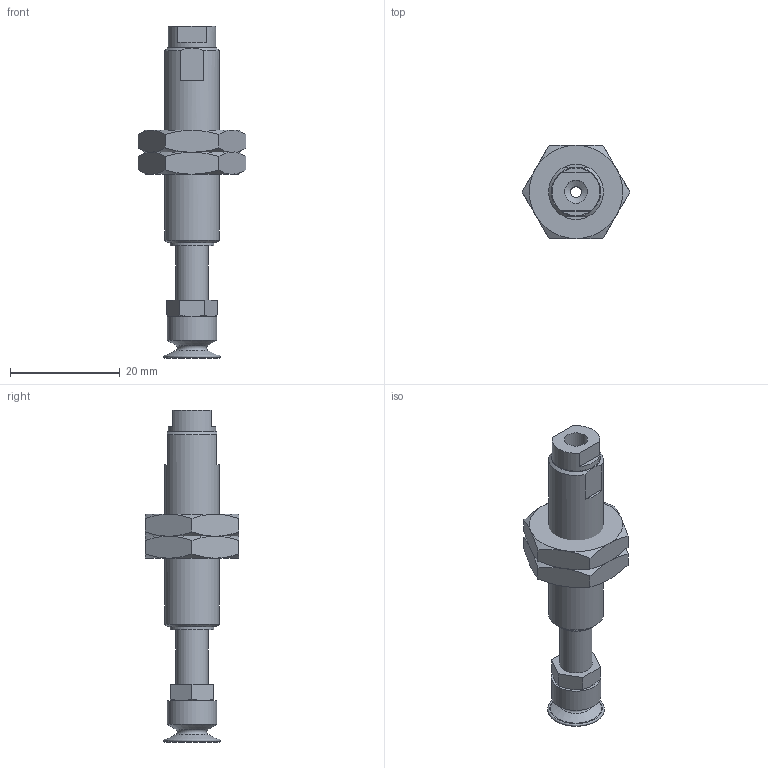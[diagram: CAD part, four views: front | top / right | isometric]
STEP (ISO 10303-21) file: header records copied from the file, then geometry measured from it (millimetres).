
FILE_DESCRIPTION(('STEP AP203'),'1');
FILE_NAME('-LB.stp','2025-03-28T07:29:30',(' '),(' '),'Spatial InterOp 3D',' ',' ');
FILE_SCHEMA(('CONFIG_CONTROL_DESIGN'));
Length unit declared in the file: millimetre
Products named in the file (8): BNAPFTH-10A-10-※-LB; __; BODY; NUT; TN-PS-10-M5; Setting screws-TN-PS-10-M5; BPAG-10B-※
Assembly tree (7 placements, depth 3):
  BNAPFTH-10A-10-※-LB
    __
    BODY
    NUT
    NUT
    TN-PS-10-M5
      Setting screws-TN-PS-10-M5
    BPAG-10B-※
Bounding box: 19.63 x 17 x 60.5 mm (x, y, z)
Volume: 5066.4 mm3; surface area: 4348.7 mm2
Topology: 6 solids, 6 shells, 160 faces, 365 edges, 225 vertices
Faces by surface type: plane 82, cone 41, cylinder 27, torus 10
Full cylindrical faces by diameter (mm): 2 x3, 3.9 x1, 4 x2, 4.2 x2, 5 x1, 6 x3, 7 x1, 8 x1, 8.7 x1, 9 x3, 10 x1
Entity records: 4732 total; most frequent: CARTESIAN_POINT 937, DIRECTION 722, ORIENTED_EDGE 638, EDGE_CURVE 319, AXIS2_PLACEMENT_3D 298, EDGE_LOOP 218, VERTEX_POINT 217, FACE_OUTER_BOUND 189
